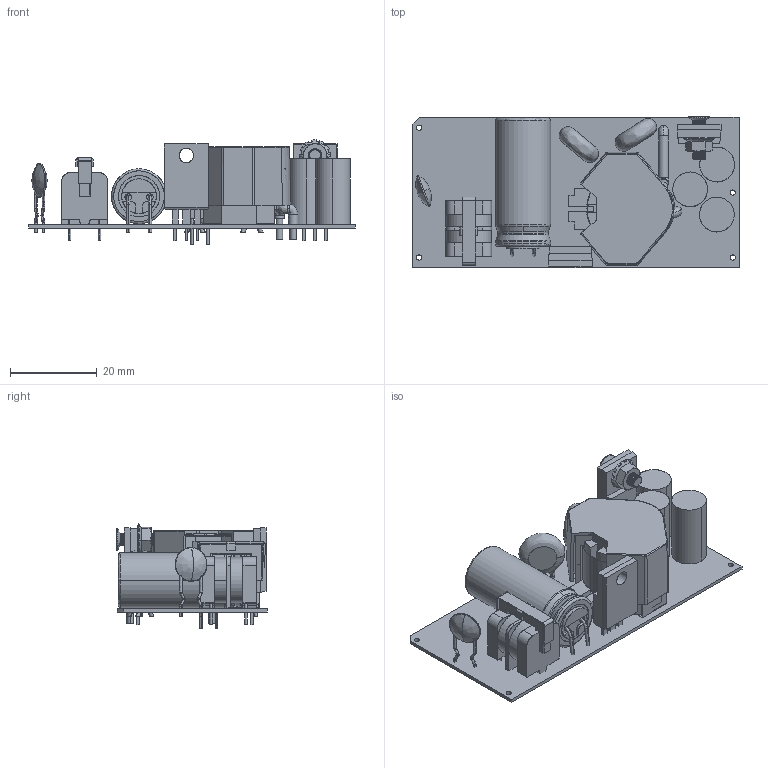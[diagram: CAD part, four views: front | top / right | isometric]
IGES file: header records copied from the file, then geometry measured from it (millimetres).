
Start section: SolidWorks IGES file using analytic representation for surfaces
Global section: file name: C:\Users\ksmith.XPNA\Desktop\EML30\EML30-P\EML30-P IGES.IGS; native system: SolidWorks 2014; preprocessor: SolidWorks 2014; author: ksmith; date: 140730.141444; units: inch
Bounding box: 75.2 x 34.8 x 24.05 mm (x, y, z)
Surface area: 20281.5 mm2 (no closed solid volume)
Topology: 0 solids, 0 shells, 875 faces, 8778 edges, 8770 vertices
Faces by surface type: bspline 573, revolution 302
